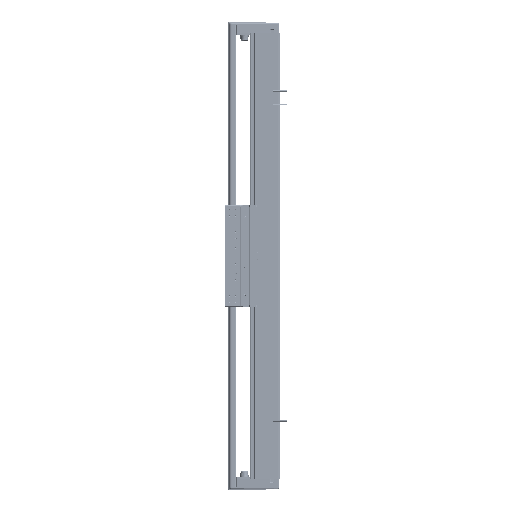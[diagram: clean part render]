
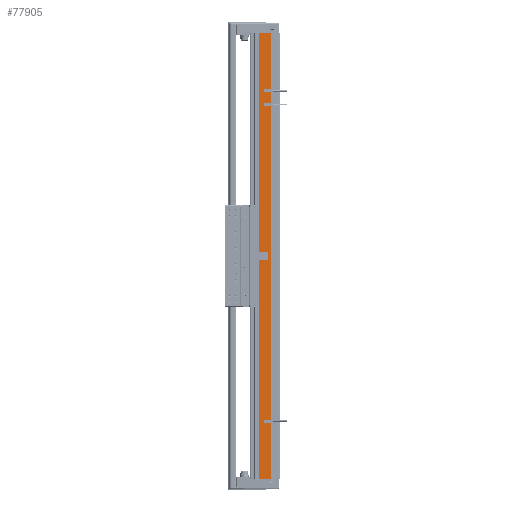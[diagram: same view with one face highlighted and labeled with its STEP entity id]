
A CAD part, left-side view. The second image highlights one B-rep face of the part: STEP entity #77905.
In plain terms, the highlighted planar face has unit normal (-1, 0, 0).
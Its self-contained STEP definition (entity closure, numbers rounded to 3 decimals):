
#1600 = EDGE_CURVE ( 'NONE', #37568, #23866, #88752, .T. ) ;
#3923 = DIRECTION ( 'NONE',  ( 0., -1., 0. ) ) ;
#7768 = ORIENTED_EDGE ( 'NONE', *, *, #1600, .F. ) ;
#16477 = CARTESIAN_POINT ( 'NONE',  ( -97.5, 36.95, -420. ) ) ;
#21576 = CARTESIAN_POINT ( 'NONE',  ( -97.5, 14.45, 420. ) ) ;
#23866 = VERTEX_POINT ( 'NONE', #21576 ) ;
#25442 = VECTOR ( 'NONE', #107245, 1000. ) ;
#30034 = EDGE_CURVE ( 'NONE', #37568, #82818, #63790, .T. ) ;
#30435 = DIRECTION ( 'NONE',  ( 0., 0., -1. ) ) ;
#34280 = AXIS2_PLACEMENT_3D ( 'NONE', #91230, #70856, #113654 ) ;
#37568 = VERTEX_POINT ( 'NONE', #79473 ) ;
#42312 = VECTOR ( 'NONE', #90810, 1000. ) ;
#46698 = CARTESIAN_POINT ( 'NONE',  ( -97.5, 36.95, 420. ) ) ;
#47096 = EDGE_LOOP ( 'NONE', ( #101744, #138063, #7768, #59577 ) ) ;
#48668 = LINE ( 'NONE', #62640, #59879 ) ;
#52584 = CARTESIAN_POINT ( 'NONE',  ( -97.5, 14.45, -420. ) ) ;
#55617 = EDGE_CURVE ( 'NONE', #23866, #125013, #48668, .T. ) ;
#59577 = ORIENTED_EDGE ( 'NONE', *, *, #30034, .T. ) ;
#59879 = VECTOR ( 'NONE', #30435, 1000. ) ;
#62640 = CARTESIAN_POINT ( 'NONE',  ( -97.5, 14.45, 420. ) ) ;
#63790 = LINE ( 'NONE', #65146, #25442 ) ;
#65146 = CARTESIAN_POINT ( 'NONE',  ( -97.5, 36.95, 420. ) ) ;
#70856 = DIRECTION ( 'NONE',  ( 1., 0., 0. ) ) ;
#77905 = ADVANCED_FACE ( 'NONE', ( #80663 ), #81347, .F. ) ;
#79473 = CARTESIAN_POINT ( 'NONE',  ( -97.5, 36.95, 420. ) ) ;
#80663 = FACE_OUTER_BOUND ( 'NONE', #47096, .T. ) ;
#81347 = PLANE ( 'NONE',  #34280 ) ;
#82818 = VERTEX_POINT ( 'NONE', #98884 ) ;
#88752 = LINE ( 'NONE', #46698, #42312 ) ;
#89004 = VECTOR ( 'NONE', #3923, 1000. ) ;
#90810 = DIRECTION ( 'NONE',  ( 0., -1., 0. ) ) ;
#91230 = CARTESIAN_POINT ( 'NONE',  ( -97.5, 36.95, 420. ) ) ;
#98884 = CARTESIAN_POINT ( 'NONE',  ( -97.5, 36.95, -420. ) ) ;
#101744 = ORIENTED_EDGE ( 'NONE', *, *, #117401, .T. ) ;
#107245 = DIRECTION ( 'NONE',  ( 0., 0., -1. ) ) ;
#113654 = DIRECTION ( 'NONE',  ( 0., 1., 0. ) ) ;
#117401 = EDGE_CURVE ( 'NONE', #82818, #125013, #121576, .T. ) ;
#121576 = LINE ( 'NONE', #16477, #89004 ) ;
#125013 = VERTEX_POINT ( 'NONE', #52584 ) ;
#138063 = ORIENTED_EDGE ( 'NONE', *, *, #55617, .F. ) ;
